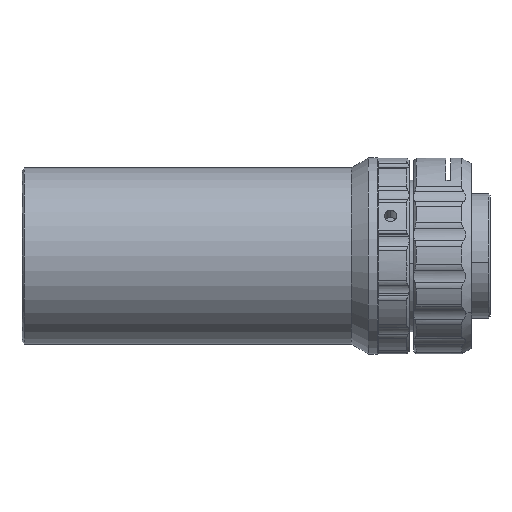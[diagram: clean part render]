
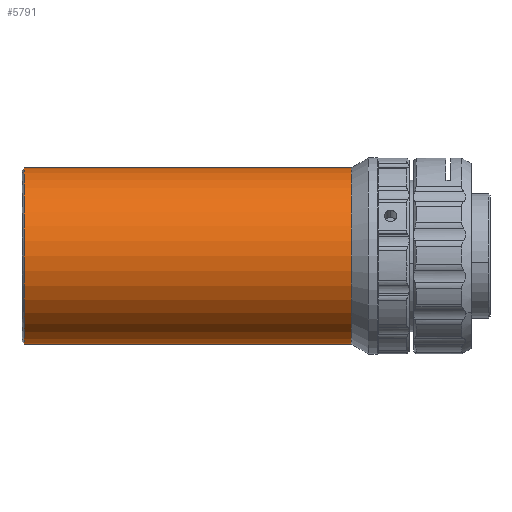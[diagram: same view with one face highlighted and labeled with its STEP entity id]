
A CAD part, front view. The second image highlights one B-rep face of the part: STEP entity #5791.
In plain terms, the highlighted cylindrical face has radius 18 mm (diameter 36 mm), a partial arc.
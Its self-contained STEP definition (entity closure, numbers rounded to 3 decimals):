
#195 = DIRECTION ( 'NONE',  ( -1., 0., 0. ) ) ;
#354 = CARTESIAN_POINT ( 'NONE',  ( 0.5, 0., -18. ) ) ;
#384 = AXIS2_PLACEMENT_3D ( 'NONE', #5895, #2384, #4739 ) ;
#404 = EDGE_LOOP ( 'NONE', ( #3609, #7366, #3448, #2268 ) ) ;
#574 = DIRECTION ( 'NONE',  ( -1., 0., 0. ) ) ;
#767 = FACE_OUTER_BOUND ( 'NONE', #404, .T. ) ;
#914 = EDGE_CURVE ( 'NONE', #3283, #2732, #1915, .T. ) ;
#1050 = DIRECTION ( 'NONE',  ( -1., 0., 0. ) ) ;
#1215 = LINE ( 'NONE', #3423, #5346 ) ;
#1378 = CYLINDRICAL_SURFACE ( 'NONE', #6815, 18. ) ;
#1915 = CIRCLE ( 'NONE', #384, 18. ) ;
#2018 = AXIS2_PLACEMENT_3D ( 'NONE', #2182, #1050, #7234 ) ;
#2182 = CARTESIAN_POINT ( 'NONE',  ( 67.236, 0., 0. ) ) ;
#2268 = ORIENTED_EDGE ( 'NONE', *, *, #914, .T. ) ;
#2384 = DIRECTION ( 'NONE',  ( 1., 0., 0. ) ) ;
#2516 = CARTESIAN_POINT ( 'NONE',  ( 0., 0., 0. ) ) ;
#2732 = VERTEX_POINT ( 'NONE', #354 ) ;
#3234 = CARTESIAN_POINT ( 'NONE',  ( 67.236, 0., 18. ) ) ;
#3283 = VERTEX_POINT ( 'NONE', #3510 ) ;
#3423 = CARTESIAN_POINT ( 'NONE',  ( 0., 0., 18. ) ) ;
#3448 = ORIENTED_EDGE ( 'NONE', *, *, #5326, .T. ) ;
#3510 = CARTESIAN_POINT ( 'NONE',  ( 0.5, 0., 18. ) ) ;
#3578 = VERTEX_POINT ( 'NONE', #3234 ) ;
#3609 = ORIENTED_EDGE ( 'NONE', *, *, #6279, .F. ) ;
#3912 = VECTOR ( 'NONE', #195, 1000. ) ;
#4228 = CARTESIAN_POINT ( 'NONE',  ( 0., 0., -18. ) ) ;
#4530 = CIRCLE ( 'NONE', #2018, 18. ) ;
#4672 = EDGE_CURVE ( 'NONE', #5433, #3578, #4530, .T. ) ;
#4739 = DIRECTION ( 'NONE',  ( 0., 0., -1. ) ) ;
#5326 = EDGE_CURVE ( 'NONE', #3578, #3283, #1215, .T. ) ;
#5346 = VECTOR ( 'NONE', #574, 1000. ) ;
#5412 = LINE ( 'NONE', #4228, #3912 ) ;
#5433 = VERTEX_POINT ( 'NONE', #6996 ) ;
#5791 = ADVANCED_FACE ( 'NONE', ( #767 ), #1378, .T. ) ;
#5871 = DIRECTION ( 'NONE',  ( 0., 0., 1. ) ) ;
#5895 = CARTESIAN_POINT ( 'NONE',  ( 0.5, 0., 0. ) ) ;
#6279 = EDGE_CURVE ( 'NONE', #5433, #2732, #5412, .T. ) ;
#6815 = AXIS2_PLACEMENT_3D ( 'NONE', #2516, #7054, #5871 ) ;
#6996 = CARTESIAN_POINT ( 'NONE',  ( 67.236, 0., -18. ) ) ;
#7054 = DIRECTION ( 'NONE',  ( -1., 0., 0. ) ) ;
#7234 = DIRECTION ( 'NONE',  ( 0., 0., 1. ) ) ;
#7366 = ORIENTED_EDGE ( 'NONE', *, *, #4672, .T. ) ;
